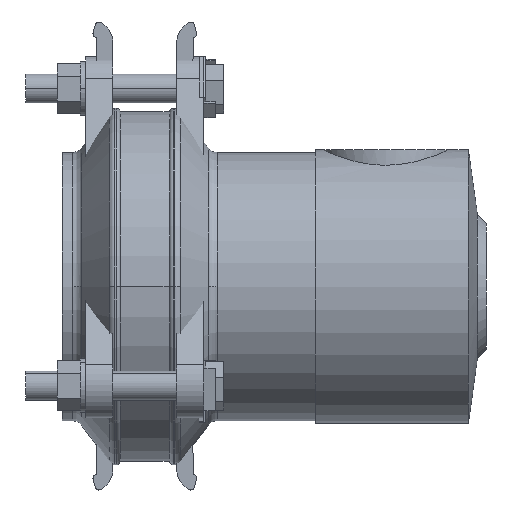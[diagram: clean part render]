
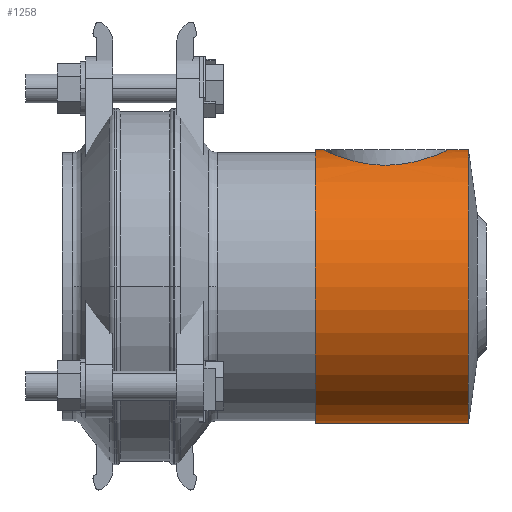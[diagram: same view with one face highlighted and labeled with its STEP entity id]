
A CAD part, front view. The second image highlights one B-rep face of the part: STEP entity #1258.
In plain terms, the highlighted cylindrical face has radius 76 mm (diameter 152 mm), a partial arc.
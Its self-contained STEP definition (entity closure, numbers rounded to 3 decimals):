
#1258=ADVANCED_FACE('',(#2290),#2291,.T.);
#2290=FACE_OUTER_BOUND('',#3345,.T.);
#2291=CYLINDRICAL_SURFACE('',#3346,76.0);
#3345=EDGE_LOOP('',(#5729,#5730,#5731,#5732,#5733,#5734));
#3346=AXIS2_PLACEMENT_3D('',#5735,#5736,#5737);
#5729=ORIENTED_EDGE('',*,*,#6418,.T.);
#5730=ORIENTED_EDGE('',*,*,#6376,.T.);
#5731=ORIENTED_EDGE('',*,*,#6421,.T.);
#5732=ORIENTED_EDGE('',*,*,#5984,.T.);
#5733=ORIENTED_EDGE('',*,*,#6420,.T.);
#5734=ORIENTED_EDGE('',*,*,#6532,.T.);
#5735=CARTESIAN_POINT('',(4.5,0.0,0.));
#5736=DIRECTION('',(1.0,0.0,0.));
#5737=DIRECTION('',(0.,0.0,-1.0));
#5984=EDGE_CURVE('',#7091,#7092,#7093,.T.);
#6376=EDGE_CURVE('',#6999,#7001,#7673,.T.);
#6418=EDGE_CURVE('',#7722,#6999,#7723,.T.);
#6420=EDGE_CURVE('',#7092,#7724,#7726,.T.);
#6421=EDGE_CURVE('',#7001,#7091,#7727,.T.);
#6532=EDGE_CURVE('',#7724,#7722,#7864,.T.);
#6999=VERTEX_POINT('',#8445);
#7001=VERTEX_POINT('',#8448);
#7091=VERTEX_POINT('',#8563);
#7092=VERTEX_POINT('',#8564);
#7093=B_SPLINE_CURVE_WITH_KNOTS('',3,(#8565,#8566,#8567,#8568,#8569,#8570,#8571,#8572,#8573,#8574,#8575,#8576,#8577,#8578,#8579,#8580,#8581,#8582,#8583,#8584,#8585,#8586,#8587,#8588,#8589,#8590,#8591,#8592,#8593,#8594,#8595,#8596,#8597,#8598,#8599,#8600,#8601,#8602,#8603,#8604,#8605,#8606,#8607,#8608,#8609,#8610,#8611,#8612,#8613,#8614,#8615,#8616,#8617,#8618,#8619,#8620,#8621,#8622,#8623,#8624,#8625,#8626,#8627,#8628,#8629,#8630),.UNSPECIFIED.,.F.,.F.,(4,2,2,2,2,2,2,2,2,2,2,2,2,2,2,2,2,2,2,2,2,2,2,2,2,2,2,2,2,2,2,2,4),(53.631,56.979,60.328,63.677,67.026,70.374,73.723,77.072,80.421,83.776,87.131,90.486,93.841,97.196,100.551,103.906,107.261,110.616,113.971,117.326,120.681,124.036,127.391,130.746,134.102,137.45,140.799,144.148,147.497,150.845,154.194,157.543,160.892),.UNSPECIFIED.);
#7673=CIRCLE('',#9459,76.0);
#7722=VERTEX_POINT('',#9524);
#7723=LINE('',#9525,#9526);
#7724=VERTEX_POINT('',#9527);
#7726=LINE('',#9529,#9530);
#7727=LINE('',#9531,#9532);
#7864=CIRCLE('',#9720,76.0);
#8445=CARTESIAN_POINT('',(89.5,0.0,-76.0));
#8448=CARTESIAN_POINT('',(89.5,0.,76.0));
#8563=CARTESIAN_POINT('',(78.5,0.,76.0));
#8564=CARTESIAN_POINT('',(8.5,0.0,76.0));
#8565=CARTESIAN_POINT('',(78.5,0.,76.0));
#8566=CARTESIAN_POINT('',(78.5,-1.116,76.0));
#8567=CARTESIAN_POINT('',(78.446,-2.249,75.975));
#8568=CARTESIAN_POINT('',(78.225,-4.525,75.874));
#8569=CARTESIAN_POINT('',(78.057,-5.669,75.797));
#8570=CARTESIAN_POINT('',(77.606,-7.944,75.592));
#8571=CARTESIAN_POINT('',(77.323,-9.077,75.464));
#8572=CARTESIAN_POINT('',(76.643,-11.31,75.162));
#8573=CARTESIAN_POINT('',(76.246,-12.411,74.988));
#8574=CARTESIAN_POINT('',(75.348,-14.562,74.6));
#8575=CARTESIAN_POINT('',(74.846,-15.614,74.386));
#8576=CARTESIAN_POINT('',(73.745,-17.652,73.929));
#8577=CARTESIAN_POINT('',(73.146,-18.639,73.685));
#8578=CARTESIAN_POINT('',(71.867,-20.533,73.18));
#8579=CARTESIAN_POINT('',(71.187,-21.441,72.918));
#8580=CARTESIAN_POINT('',(69.761,-23.165,72.389));
#8581=CARTESIAN_POINT('',(69.016,-23.982,72.122));
#8582=CARTESIAN_POINT('',(67.48,-25.517,71.593));
#8583=CARTESIAN_POINT('',(66.663,-26.263,71.322));
#8584=CARTESIAN_POINT('',(64.937,-27.69,70.78));
#8585=CARTESIAN_POINT('',(64.029,-28.37,70.51));
#8586=CARTESIAN_POINT('',(62.135,-29.649,69.982));
#8587=CARTESIAN_POINT('',(61.149,-30.247,69.725));
#8588=CARTESIAN_POINT('',(59.112,-31.346,69.237));
#8589=CARTESIAN_POINT('',(58.062,-31.848,69.007));
#8590=CARTESIAN_POINT('',(55.912,-32.746,68.585));
#8591=CARTESIAN_POINT('',(54.813,-33.142,68.394));
#8592=CARTESIAN_POINT('',(52.581,-33.822,68.061));
#8593=CARTESIAN_POINT('',(51.449,-34.105,67.918));
#8594=CARTESIAN_POINT('',(49.174,-34.556,67.69));
#8595=CARTESIAN_POINT('',(48.03,-34.724,67.603));
#8596=CARTESIAN_POINT('',(45.753,-34.946,67.489));
#8597=CARTESIAN_POINT('',(44.618,-35.0,67.461));
#8598=CARTESIAN_POINT('',(42.382,-35.0,67.461));
#8599=CARTESIAN_POINT('',(41.247,-34.946,67.489));
#8600=CARTESIAN_POINT('',(38.97,-34.724,67.603));
#8601=CARTESIAN_POINT('',(37.826,-34.556,67.69));
#8602=CARTESIAN_POINT('',(35.551,-34.105,67.918));
#8603=CARTESIAN_POINT('',(34.419,-33.822,68.061));
#8604=CARTESIAN_POINT('',(32.187,-33.142,68.394));
#8605=CARTESIAN_POINT('',(31.088,-32.746,68.585));
#8606=CARTESIAN_POINT('',(28.938,-31.848,69.007));
#8607=CARTESIAN_POINT('',(27.888,-31.346,69.237));
#8608=CARTESIAN_POINT('',(25.851,-30.247,69.725));
#8609=CARTESIAN_POINT('',(24.865,-29.649,69.982));
#8610=CARTESIAN_POINT('',(22.971,-28.37,70.51));
#8611=CARTESIAN_POINT('',(22.063,-27.69,70.78));
#8612=CARTESIAN_POINT('',(20.337,-26.263,71.322));
#8613=CARTESIAN_POINT('',(19.52,-25.517,71.593));
#8614=CARTESIAN_POINT('',(17.984,-23.982,72.122));
#8615=CARTESIAN_POINT('',(17.239,-23.165,72.389));
#8616=CARTESIAN_POINT('',(15.813,-21.441,72.918));
#8617=CARTESIAN_POINT('',(15.133,-20.533,73.18));
#8618=CARTESIAN_POINT('',(13.854,-18.639,73.685));
#8619=CARTESIAN_POINT('',(13.255,-17.652,73.929));
#8620=CARTESIAN_POINT('',(12.154,-15.614,74.386));
#8621=CARTESIAN_POINT('',(11.652,-14.562,74.6));
#8622=CARTESIAN_POINT('',(10.754,-12.411,74.988));
#8623=CARTESIAN_POINT('',(10.357,-11.31,75.162));
#8624=CARTESIAN_POINT('',(9.677,-9.077,75.464));
#8625=CARTESIAN_POINT('',(9.394,-7.944,75.592));
#8626=CARTESIAN_POINT('',(8.943,-5.669,75.797));
#8627=CARTESIAN_POINT('',(8.775,-4.525,75.874));
#8628=CARTESIAN_POINT('',(8.554,-2.249,75.975));
#8629=CARTESIAN_POINT('',(8.5,-1.116,76.0));
#8630=CARTESIAN_POINT('',(8.5,0.0,76.0));
#9459=AXIS2_PLACEMENT_3D('',#10705,#10706,#10707);
#9524=CARTESIAN_POINT('',(4.5,0.0,-76.0));
#9525=CARTESIAN_POINT('',(4.5,0.,-76.0));
#9526=VECTOR('',#10742,1.0);
#9527=CARTESIAN_POINT('',(4.5,0.,76.0));
#9529=CARTESIAN_POINT('',(4.5,0.,76.0));
#9530=VECTOR('',#10746,1.0);
#9531=CARTESIAN_POINT('',(4.5,0.,76.0));
#9532=VECTOR('',#10747,1.0);
#9720=AXIS2_PLACEMENT_3D('',#10841,#10842,#10843);
#10705=CARTESIAN_POINT('',(89.5,0.0,0.));
#10706=DIRECTION('',(-1.0,-0.0,0.));
#10707=DIRECTION('',(0.,0.0,-1.0));
#10742=DIRECTION('',(1.0,0.0,0.));
#10746=DIRECTION('',(-1.0,-0.0,0.));
#10747=DIRECTION('',(-1.0,-0.0,0.));
#10841=CARTESIAN_POINT('',(4.5,0.0,0.));
#10842=DIRECTION('',(1.0,0.0,0.));
#10843=DIRECTION('',(0.,0.0,-1.0));
